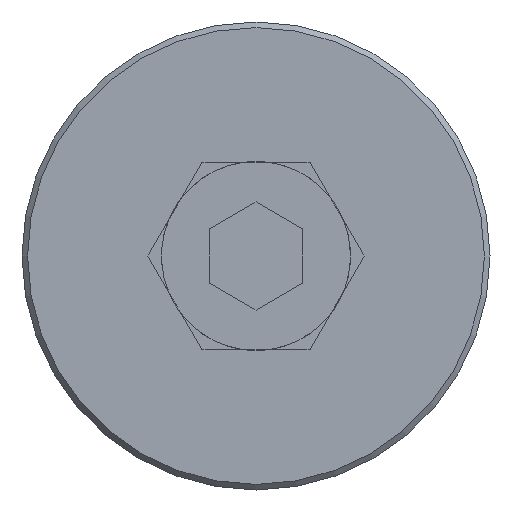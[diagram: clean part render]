
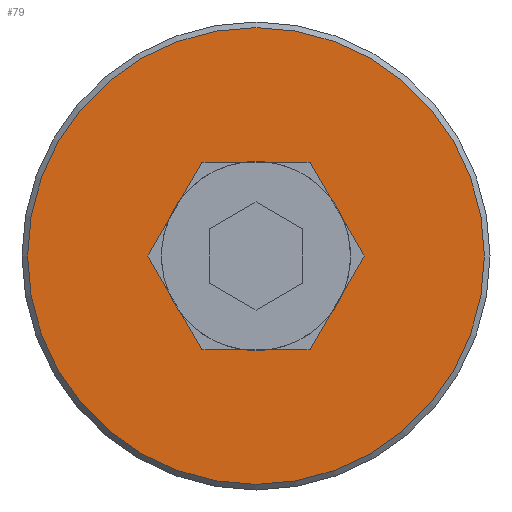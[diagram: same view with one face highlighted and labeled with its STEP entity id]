
A CAD part, left-side view. The second image highlights one B-rep face of the part: STEP entity #79.
In plain terms, the highlighted planar face has unit normal (-1, 0, 0).
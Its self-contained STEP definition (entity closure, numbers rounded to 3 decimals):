
#79 = ADVANCED_FACE( '', ( #188, #189 ), #190, .F. );
#188 = FACE_OUTER_BOUND( '', #335, .T. );
#189 = FACE_BOUND( '', #336, .T. );
#190 = PLANE( '', #337 );
#335 = EDGE_LOOP( '', ( #529 ) );
#336 = EDGE_LOOP( '', ( #530, #531, #532, #533, #534, #535, #536, #537, #538, #539, #540, #541, #542, #543, #544, #545, #546, #547 ) );
#337 = AXIS2_PLACEMENT_3D( '', #548, #549, #550 );
#529 = ORIENTED_EDGE( '', *, *, #840, .F. );
#530 = ORIENTED_EDGE( '', *, *, #819, .T. );
#531 = ORIENTED_EDGE( '', *, *, #841, .T. );
#532 = ORIENTED_EDGE( '', *, *, #842, .T. );
#533 = ORIENTED_EDGE( '', *, *, #835, .T. );
#534 = ORIENTED_EDGE( '', *, *, #843, .T. );
#535 = ORIENTED_EDGE( '', *, *, #844, .T. );
#536 = ORIENTED_EDGE( '', *, *, #831, .T. );
#537 = ORIENTED_EDGE( '', *, *, #845, .T. );
#538 = ORIENTED_EDGE( '', *, *, #805, .T. );
#539 = ORIENTED_EDGE( '', *, *, #828, .T. );
#540 = ORIENTED_EDGE( '', *, *, #846, .T. );
#541 = ORIENTED_EDGE( '', *, *, #813, .T. );
#542 = ORIENTED_EDGE( '', *, *, #825, .T. );
#543 = ORIENTED_EDGE( '', *, *, #847, .T. );
#544 = ORIENTED_EDGE( '', *, *, #800, .T. );
#545 = ORIENTED_EDGE( '', *, *, #823, .T. );
#546 = ORIENTED_EDGE( '', *, *, #848, .T. );
#547 = ORIENTED_EDGE( '', *, *, #849, .T. );
#548 = CARTESIAN_POINT( '', ( 0., 0., 0. ) );
#549 = DIRECTION( '', ( 1., 0., 0. ) );
#550 = DIRECTION( '', ( 0., 0., -1. ) );
#800 = EDGE_CURVE( '', #939, #937, #940, .T. );
#805 = EDGE_CURVE( '', #948, #946, #949, .T. );
#813 = EDGE_CURVE( '', #962, #960, #963, .T. );
#819 = EDGE_CURVE( '', #970, #971, #972, .T. );
#823 = EDGE_CURVE( '', #937, #977, #979, .T. );
#825 = EDGE_CURVE( '', #960, #980, #982, .T. );
#828 = EDGE_CURVE( '', #946, #985, #987, .T. );
#831 = EDGE_CURVE( '', #992, #990, #993, .T. );
#835 = EDGE_CURVE( '', #1000, #998, #1001, .T. );
#840 = EDGE_CURVE( '', #1008, #1008, #1009, .T. );
#841 = EDGE_CURVE( '', #971, #1010, #1011, .T. );
#842 = EDGE_CURVE( '', #1010, #1000, #1012, .T. );
#843 = EDGE_CURVE( '', #998, #1013, #1014, .T. );
#844 = EDGE_CURVE( '', #1013, #992, #1015, .T. );
#845 = EDGE_CURVE( '', #990, #948, #1016, .T. );
#846 = EDGE_CURVE( '', #985, #962, #1017, .T. );
#847 = EDGE_CURVE( '', #980, #939, #1018, .T. );
#848 = EDGE_CURVE( '', #977, #1019, #1020, .T. );
#849 = EDGE_CURVE( '', #1019, #970, #1021, .T. );
#937 = VERTEX_POINT( '', #1133 );
#939 = VERTEX_POINT( '', #1136 );
#940 = LINE( '', #1137, #1138 );
#946 = VERTEX_POINT( '', #1146 );
#948 = VERTEX_POINT( '', #1149 );
#949 = LINE( '', #1150, #1151 );
#960 = VERTEX_POINT( '', #1164 );
#962 = VERTEX_POINT( '', #1167 );
#963 = LINE( '', #1168, #1169 );
#970 = VERTEX_POINT( '', #1178 );
#971 = VERTEX_POINT( '', #1179 );
#972 = CIRCLE( '', #1180, 5.05 );
#977 = VERTEX_POINT( '', #1186 );
#979 = CIRCLE( '', #1189, 5.05 );
#980 = VERTEX_POINT( '', #1190 );
#982 = CIRCLE( '', #1193, 5.05 );
#985 = VERTEX_POINT( '', #1196 );
#987 = CIRCLE( '', #1199, 5.05 );
#990 = VERTEX_POINT( '', #1202 );
#992 = VERTEX_POINT( '', #1205 );
#993 = CIRCLE( '', #1206, 5.05 );
#998 = VERTEX_POINT( '', #1212 );
#1000 = VERTEX_POINT( '', #1215 );
#1001 = CIRCLE( '', #1216, 5.05 );
#1008 = VERTEX_POINT( '', #1225 );
#1009 = CIRCLE( '', #1226, 12.2 );
#1010 = VERTEX_POINT( '', #1227 );
#1011 = LINE( '', #1228, #1229 );
#1012 = LINE( '', #1230, #1231 );
#1013 = VERTEX_POINT( '', #1232 );
#1014 = LINE( '', #1233, #1234 );
#1015 = LINE( '', #1235, #1236 );
#1016 = LINE( '', #1237, #1238 );
#1017 = LINE( '', #1239, #1240 );
#1018 = LINE( '', #1241, #1242 );
#1019 = VERTEX_POINT( '', #1243 );
#1020 = LINE( '', #1244, #1245 );
#1021 = LINE( '', #1246, #1247 );
#1133 = CARTESIAN_POINT( '', ( 0., -3.976, 3.114 ) );
#1136 = CARTESIAN_POINT( '', ( 0., -2.887, 5. ) );
#1137 = CARTESIAN_POINT( '', ( 0., -2.887, 5. ) );
#1138 = VECTOR( '', #1367, 1000. );
#1146 = CARTESIAN_POINT( '', ( 0., 4.685, 1.886 ) );
#1149 = CARTESIAN_POINT( '', ( 0., 5.774, 0. ) );
#1150 = CARTESIAN_POINT( '', ( 0., 5.774, 0. ) );
#1151 = VECTOR( '', #1371, 1000. );
#1164 = CARTESIAN_POINT( '', ( 0., 0.709, 5. ) );
#1167 = CARTESIAN_POINT( '', ( 0., 2.887, 5. ) );
#1168 = CARTESIAN_POINT( '', ( 0., 2.887, 5. ) );
#1169 = VECTOR( '', #1381, 1000. );
#1178 = CARTESIAN_POINT( '', ( 0., -4.685, -1.886 ) );
#1179 = CARTESIAN_POINT( '', ( 0., -3.976, -3.114 ) );
#1180 = AXIS2_PLACEMENT_3D( '', #1387, #1388, #1389 );
#1186 = CARTESIAN_POINT( '', ( 0., -4.685, 1.886 ) );
#1189 = AXIS2_PLACEMENT_3D( '', #1395, #1396, #1397 );
#1190 = CARTESIAN_POINT( '', ( 0., -0.709, 5. ) );
#1193 = AXIS2_PLACEMENT_3D( '', #1399, #1400, #1401 );
#1196 = CARTESIAN_POINT( '', ( 0., 3.976, 3.114 ) );
#1199 = AXIS2_PLACEMENT_3D( '', #1406, #1407, #1408 );
#1202 = CARTESIAN_POINT( '', ( 0., 4.685, -1.886 ) );
#1205 = CARTESIAN_POINT( '', ( 0., 3.976, -3.114 ) );
#1206 = AXIS2_PLACEMENT_3D( '', #1413, #1414, #1415 );
#1212 = CARTESIAN_POINT( '', ( 0., 0.709, -5. ) );
#1215 = CARTESIAN_POINT( '', ( 0., -0.709, -5. ) );
#1216 = AXIS2_PLACEMENT_3D( '', #1421, #1422, #1423 );
#1225 = CARTESIAN_POINT( '', ( 0., 0., -12.2 ) );
#1226 = AXIS2_PLACEMENT_3D( '', #1429, #1430, #1431 );
#1227 = CARTESIAN_POINT( '', ( 0., -2.887, -5. ) );
#1228 = CARTESIAN_POINT( '', ( 0., -5.774, 0. ) );
#1229 = VECTOR( '', #1432, 1000. );
#1230 = CARTESIAN_POINT( '', ( 0., -2.887, -5. ) );
#1231 = VECTOR( '', #1433, 1000. );
#1232 = CARTESIAN_POINT( '', ( 0., 2.887, -5. ) );
#1233 = CARTESIAN_POINT( '', ( 0., -2.887, -5. ) );
#1234 = VECTOR( '', #1434, 1000. );
#1235 = CARTESIAN_POINT( '', ( 0., 2.887, -5. ) );
#1236 = VECTOR( '', #1435, 1000. );
#1237 = CARTESIAN_POINT( '', ( 0., 2.887, -5. ) );
#1238 = VECTOR( '', #1436, 1000. );
#1239 = CARTESIAN_POINT( '', ( 0., 5.774, 0. ) );
#1240 = VECTOR( '', #1437, 1000. );
#1241 = CARTESIAN_POINT( '', ( 0., 2.887, 5. ) );
#1242 = VECTOR( '', #1438, 1000. );
#1243 = CARTESIAN_POINT( '', ( 0., -5.774, 0. ) );
#1244 = CARTESIAN_POINT( '', ( 0., -2.887, 5. ) );
#1245 = VECTOR( '', #1439, 1000. );
#1246 = CARTESIAN_POINT( '', ( 0., -5.774, 0. ) );
#1247 = VECTOR( '', #1440, 1000. );
#1367 = DIRECTION( '', ( 0., -0.5, -0.866 ) );
#1371 = DIRECTION( '', ( 0., -0.5, 0.866 ) );
#1381 = DIRECTION( '', ( 0., -1., 0. ) );
#1387 = CARTESIAN_POINT( '', ( 0., 0., 0. ) );
#1388 = DIRECTION( '', ( 1., 0., 0. ) );
#1389 = DIRECTION( '', ( 0., 0., -1. ) );
#1395 = CARTESIAN_POINT( '', ( 0., 0., 0. ) );
#1396 = DIRECTION( '', ( 1., 0., 0. ) );
#1397 = DIRECTION( '', ( 0., 0., -1. ) );
#1399 = CARTESIAN_POINT( '', ( 0., 0., 0. ) );
#1400 = DIRECTION( '', ( 1., 0., 0. ) );
#1401 = DIRECTION( '', ( 0., 0., -1. ) );
#1406 = CARTESIAN_POINT( '', ( 0., 0., 0. ) );
#1407 = DIRECTION( '', ( 1., 0., 0. ) );
#1408 = DIRECTION( '', ( 0., 0., -1. ) );
#1413 = CARTESIAN_POINT( '', ( 0., 0., 0. ) );
#1414 = DIRECTION( '', ( 1., 0., 0. ) );
#1415 = DIRECTION( '', ( 0., 0., -1. ) );
#1421 = CARTESIAN_POINT( '', ( 0., 0., 0. ) );
#1422 = DIRECTION( '', ( 1., 0., 0. ) );
#1423 = DIRECTION( '', ( 0., 0., -1. ) );
#1429 = CARTESIAN_POINT( '', ( 0., 0., 0. ) );
#1430 = DIRECTION( '', ( 1., 0., 0. ) );
#1431 = DIRECTION( '', ( 0., 0., -1. ) );
#1432 = DIRECTION( '', ( 0., 0.5, -0.866 ) );
#1433 = DIRECTION( '', ( 0., 1., 0. ) );
#1434 = DIRECTION( '', ( 0., 1., 0. ) );
#1435 = DIRECTION( '', ( 0., 0.5, 0.866 ) );
#1436 = DIRECTION( '', ( 0., 0.5, 0.866 ) );
#1437 = DIRECTION( '', ( 0., -0.5, 0.866 ) );
#1438 = DIRECTION( '', ( 0., -1., 0. ) );
#1439 = DIRECTION( '', ( 0., -0.5, -0.866 ) );
#1440 = DIRECTION( '', ( 0., 0.5, -0.866 ) );
